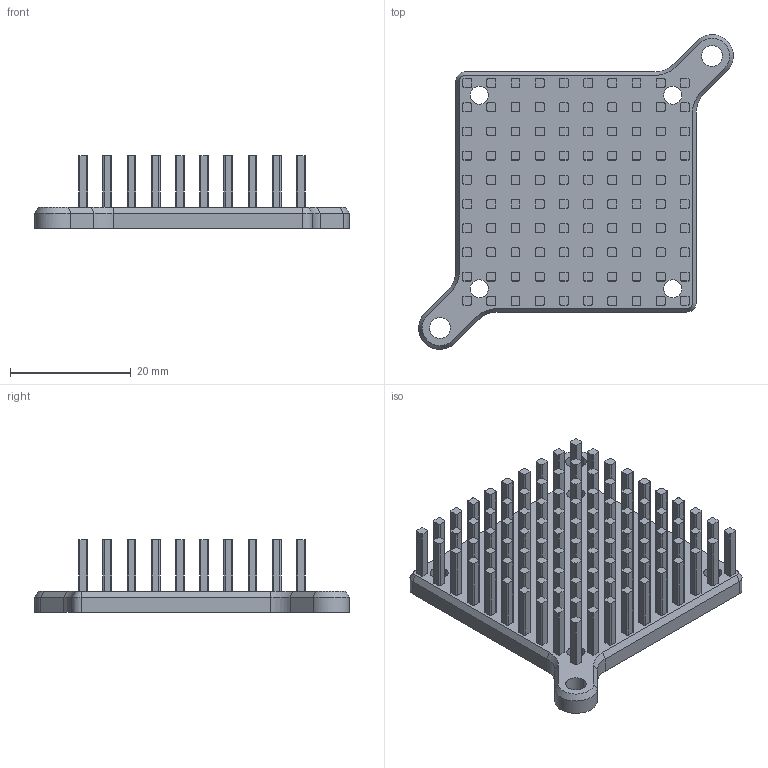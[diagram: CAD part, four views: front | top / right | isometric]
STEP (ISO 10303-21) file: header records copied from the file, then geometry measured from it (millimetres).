
FILE_DESCRIPTION(/* description */ (''),/* implementation_level */ '2;1');
FILE_NAME(/* name */ 'FSR40-~2',/* time_stamp */ '2022-06-30T18:21:13+09:00',/* author */ (''),/* organization */ (''),/* preprocessor_version */ 'ST-DEVELOPER v16.5',/* originating_system */ '',/* authorisation */ '');
FILE_SCHEMA (('AUTOMOTIVE_DESIGN'));
Length unit declared in the file: millimetre
Products named in the file (1): Document
Bounding box: 52 x 52 x 12 mm (x, y, z)
Volume: 7460.7 mm3; surface area: 8715.4 mm2
Topology: 1 solids, 1 shells, 946 faces, 2516 edges, 1672 vertices
Faces by surface type: plane 518, bspline 428
Entity records: 32087 total; most frequent: CARTESIAN_POINT 16558, ORIENTED_EDGE 5032, EDGE_CURVE 2516, VERTEX_POINT 1672, B_SPLINE_CURVE_WITH_KNOTS 1668, EDGE_LOOP 1058, ADVANCED_FACE 946, FACE_OUTER_BOUND 946
